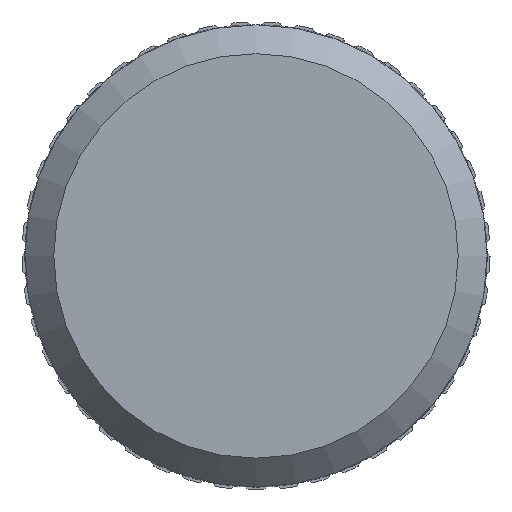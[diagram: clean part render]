
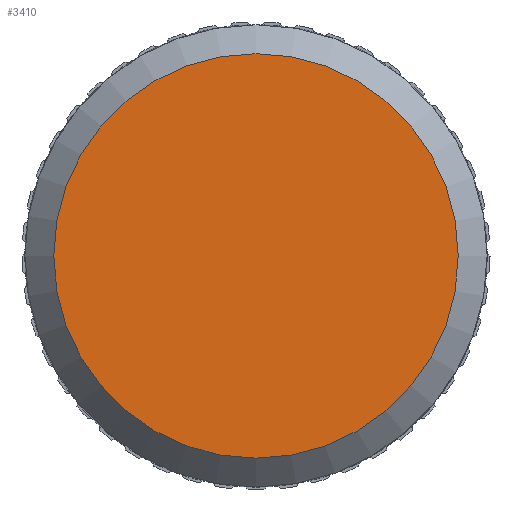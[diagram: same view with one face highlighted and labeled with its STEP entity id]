
A CAD part, left-side view. The second image highlights one B-rep face of the part: STEP entity #3410.
In plain terms, the highlighted planar face has unit normal (-1, 0, 0).
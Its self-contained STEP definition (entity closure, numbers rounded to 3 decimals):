
#103 = AXIS2_PLACEMENT_3D ( 'NONE', #4775, #5381, #522 ) ;
#114 = CARTESIAN_POINT ( 'NONE',  ( -170., 4.05, 3.5 ) ) ;
#522 = DIRECTION ( 'NONE',  ( 0., 0., 1. ) ) ;
#1162 = PLANE ( 'NONE',  #5945 ) ;
#1627 = DIRECTION ( 'NONE',  ( -1., 0., 0. ) ) ;
#2029 = VERTEX_POINT ( 'NONE', #114 ) ;
#2762 = FACE_OUTER_BOUND ( 'NONE', #5723, .T. ) ;
#2798 = DIRECTION ( 'NONE',  ( 0., 0., 1. ) ) ;
#3410 = ADVANCED_FACE ( 'NONE', ( #2762 ), #1162, .T. ) ;
#4502 = CARTESIAN_POINT ( 'NONE',  ( -170., 0.05, 0. ) ) ;
#4775 = CARTESIAN_POINT ( 'NONE',  ( -170., 4.05, 0. ) ) ;
#4929 = ORIENTED_EDGE ( 'NONE', *, *, #6329, .T. ) ;
#5311 = CIRCLE ( 'NONE', #103, 3.5 ) ;
#5381 = DIRECTION ( 'NONE',  ( -1., 0., 0. ) ) ;
#5723 = EDGE_LOOP ( 'NONE', ( #4929 ) ) ;
#5945 = AXIS2_PLACEMENT_3D ( 'NONE', #4502, #1627, #2798 ) ;
#6329 = EDGE_CURVE ( 'NONE', #2029, #2029, #5311, .T. ) ;
